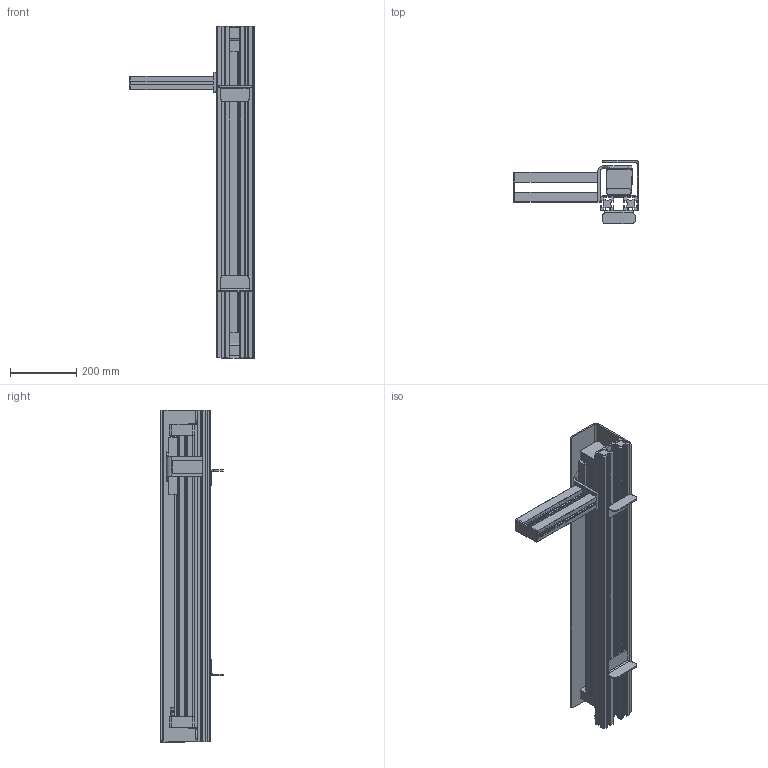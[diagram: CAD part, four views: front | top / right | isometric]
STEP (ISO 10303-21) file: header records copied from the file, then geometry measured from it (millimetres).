
FILE_DESCRIPTION((''),'2;1');
FILE_NAME('C:\Vault_Working_Folder\Designs\Inventor\Lättviktsmodeller\Klart\Midi\ITPP 50-02-620.stp','2012-11-13T13:44:46',('martin.samuelsson'),(''),'Autodesk Inventor 2013','Autodesk Inventor 2013','');
FILE_SCHEMA(('AUTOMOTIVE_DESIGN { 1 0 10303 214 1 1 1 1 }'));
Length unit declared in the file: millimetre
Products named in the file (1): ITPP 50-02-620
Bounding box: 378.57 x 189.18 x 1000 mm (x, y, z)
Volume: 6537421.8 mm3; surface area: 1688400.9 mm2
Topology: 1 solids, 1 shells, 635 faces, 1791 edges, 1136 vertices
Faces by surface type: plane 405, cylinder 160, cone 52, bspline 18
Full cylindrical faces by diameter (mm): 17 x4
Entity records: 23647 total; most frequent: CARTESIAN_POINT 6885, ORIENTED_EDGE 3558, DIRECTION 3279, EDGE_CURVE 1779, VECTOR 1251, LINE 1251, VERTEX_POINT 1132, AXIS2_PLACEMENT_3D 1014
